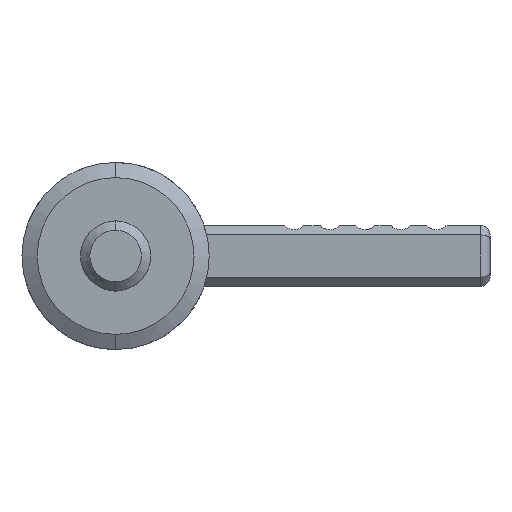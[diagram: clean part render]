
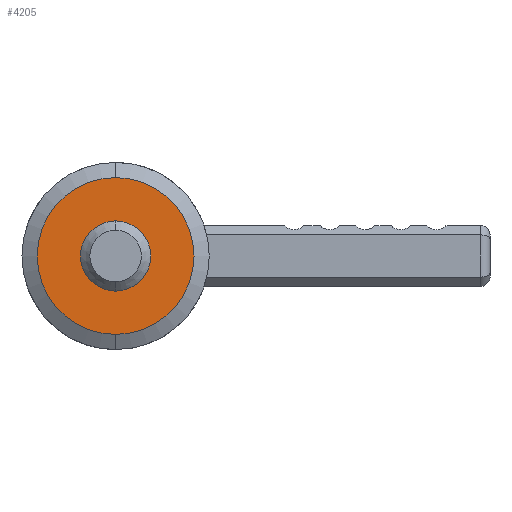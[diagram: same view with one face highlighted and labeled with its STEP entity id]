
A CAD part, front view. The second image highlights one B-rep face of the part: STEP entity #4205.
In plain terms, the highlighted planar face has unit normal (0, -1, 0).
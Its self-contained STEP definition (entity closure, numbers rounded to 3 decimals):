
#937 = CARTESIAN_POINT ( 'NONE',  ( 0., 0., 6.701 ) ) ;
#973 = DIRECTION ( 'NONE',  ( 0., 0., -1. ) ) ;
#974 = DIRECTION ( 'NONE',  ( 0., -1., 0. ) ) ;
#975 = CARTESIAN_POINT ( 'NONE',  ( 0., 0., 0. ) ) ;
#976 = AXIS2_PLACEMENT_3D ( 'NONE', #975, #974, #973 ) ;
#977 = CIRCLE ( 'NONE', #976, 6.701 ) ;
#978 = CARTESIAN_POINT ( 'NONE',  ( 0., 0., -6.701 ) ) ;
#1815 = CARTESIAN_POINT ( 'NONE',  ( 0., 0., -3. ) ) ;
#1856 = DIRECTION ( 'NONE',  ( 0., 0., -1. ) ) ;
#1857 = DIRECTION ( 'NONE',  ( 0., -1., 0. ) ) ;
#1858 = CARTESIAN_POINT ( 'NONE',  ( 0., 0., 0. ) ) ;
#1859 = AXIS2_PLACEMENT_3D ( 'NONE', #1858, #1857, #1856 ) ;
#1860 = CIRCLE ( 'NONE', #1859, 3. ) ;
#1870 = CARTESIAN_POINT ( 'NONE',  ( 0., 0., 3. ) ) ;
#2232 = DIRECTION ( 'NONE',  ( 0., 0., -1. ) ) ;
#2233 = DIRECTION ( 'NONE',  ( 0., -1., 0. ) ) ;
#2234 = CARTESIAN_POINT ( 'NONE',  ( 0., 0., 0. ) ) ;
#2235 = AXIS2_PLACEMENT_3D ( 'NONE', #2234, #2233, #2232 ) ;
#2244 = CIRCLE ( 'NONE', #2235, 3. ) ;
#2265 = DIRECTION ( 'NONE',  ( 0., 0., -1. ) ) ;
#2266 = DIRECTION ( 'NONE',  ( 0., -1., 0. ) ) ;
#2267 = CARTESIAN_POINT ( 'NONE',  ( 0., 0., 0. ) ) ;
#2268 = AXIS2_PLACEMENT_3D ( 'NONE', #2267, #2266, #2265 ) ;
#2269 = CIRCLE ( 'NONE', #2268, 6.701 ) ;
#2327 = DIRECTION ( 'NONE',  ( 0., 0., 1. ) ) ;
#2328 = DIRECTION ( 'NONE',  ( 0., 1., 0. ) ) ;
#2330 = CARTESIAN_POINT ( 'NONE',  ( -3., 0., 0. ) ) ;
#2331 = AXIS2_PLACEMENT_3D ( 'NONE', #2330, #2328, #2327 ) ;
#2332 = PLANE ( 'NONE',  #2331 ) ;
#2333 = FACE_BOUND ( 'NONE', #4150, .T. ) ;
#2334 = FACE_OUTER_BOUND ( 'NONE', #4211, .T. ) ;
#3468 = VERTEX_POINT ( 'NONE', #937 ) ;
#3470 = VERTEX_POINT ( 'NONE', #978 ) ;
#3472 = EDGE_CURVE ( 'NONE', #3470, #3468, #977, .T. ) ;
#3931 = VERTEX_POINT ( 'NONE', #1815 ) ;
#3937 = VERTEX_POINT ( 'NONE', #1870 ) ;
#3944 = EDGE_CURVE ( 'NONE', #3937, #3931, #1860, .T. ) ;
#4141 = ORIENTED_EDGE ( 'NONE', *, *, #3944, .F. ) ;
#4143 = ORIENTED_EDGE ( 'NONE', *, *, #4148, .F. ) ;
#4148 = EDGE_CURVE ( 'NONE', #3931, #3937, #2244, .T. ) ;
#4150 = EDGE_LOOP ( 'NONE', ( #4143, #4141 ) ) ;
#4169 = ORIENTED_EDGE ( 'NONE', *, *, #3472, .T. ) ;
#4176 = EDGE_CURVE ( 'NONE', #3468, #3470, #2269, .T. ) ;
#4177 = ORIENTED_EDGE ( 'NONE', *, *, #4176, .T. ) ;
#4205 = ADVANCED_FACE ( 'NONE', ( #2334, #2333 ), #2332, .F. ) ;
#4211 = EDGE_LOOP ( 'NONE', ( #4177, #4169 ) ) ;
